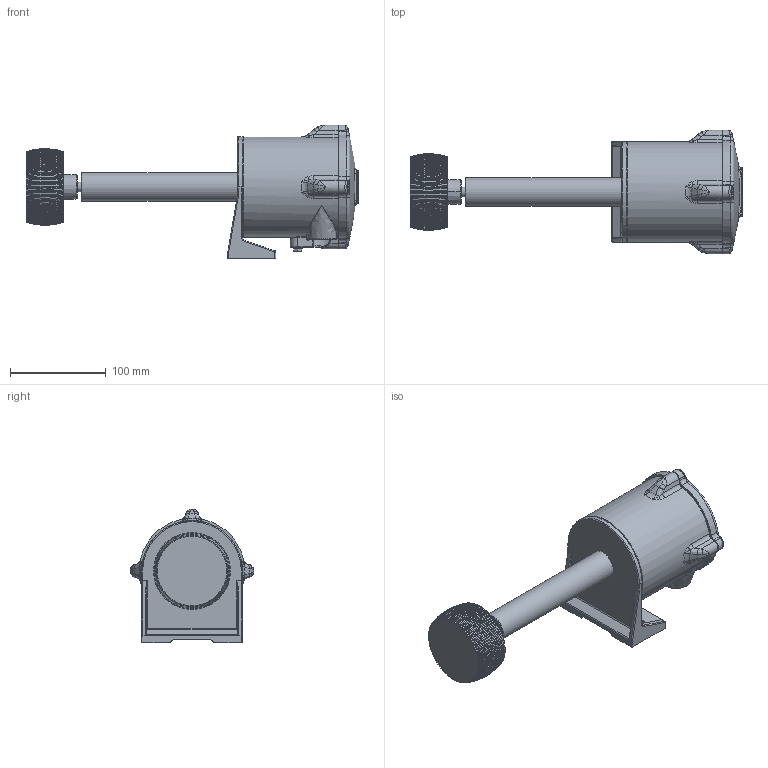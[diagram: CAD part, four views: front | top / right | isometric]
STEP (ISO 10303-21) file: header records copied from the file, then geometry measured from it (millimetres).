
FILE_DESCRIPTION(/* description */ (''),/* implementation_level */ '2;1');
FILE_NAME(/* name */ '\\SRVGEST\camlogic\TEMP\Kulwant S\2_STEP\2_STEP\SMD20\SMD-20-VN.stp',/* time_stamp */ '2021-06-15T12:00:58+02:00',/* author */ ('kulwant.singh'),/* organization */ (''),/* preprocessor_version */ 'ST-DEVELOPER v18.1',/* originating_system */ 'Autodesk Inventor 2022',/* authorisation */ '');
FILE_SCHEMA (('AUTOMOTIVE_DESIGN { 1 0 10303 214 3 1 1 }'));
Length unit declared in the file: millimetre
Products named in the file (1): SMD-20-VN
Bounding box: 346.4 x 129 x 139.5 mm (x, y, z)
Volume: 1391482.6 mm3; surface area: 133863.1 mm2
Topology: 1 solids, 1 shells, 1012 faces, 2784 edges, 1769 vertices
Faces by surface type: plane 389, cylinder 268, bspline 196, cone 82, torus 63, sphere 14
Full cylindrical faces by diameter (mm): 4.6 x4, 5 x5, 5.5 x4, 6.88 x1, 8.5 x2, 10 x1, 10.5 x4, 18.631 x2, 30 x1, 105 x1
Entity records: 38329 total; most frequent: CARTESIAN_POINT 12485, ORIENTED_EDGE 5524, DIRECTION 4951, EDGE_CURVE 2762, AXIS2_PLACEMENT_3D 1913, VERTEX_POINT 1769, LINE 1125, VECTOR 1125
